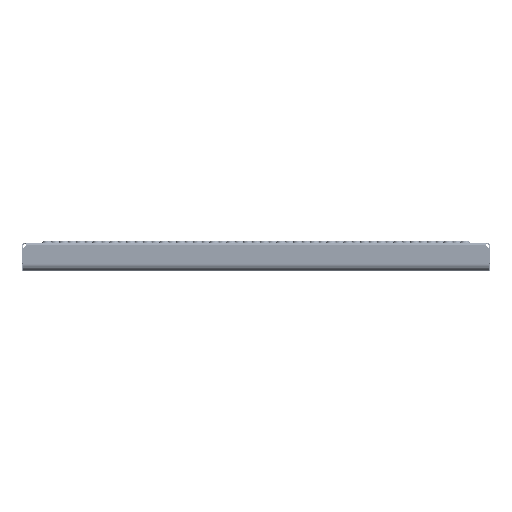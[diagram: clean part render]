
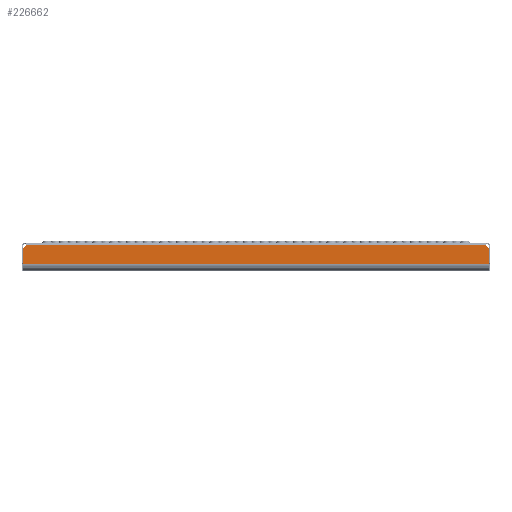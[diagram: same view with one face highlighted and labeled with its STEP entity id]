
A CAD part, top view. The second image highlights one B-rep face of the part: STEP entity #226662.
In plain terms, the highlighted planar face has unit normal (0, 0, 1).
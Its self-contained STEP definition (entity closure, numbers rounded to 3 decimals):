
#12588 = DIRECTION ( 'NONE',  ( 0., -1., 0. ) ) ;
#14128 = FACE_OUTER_BOUND ( 'NONE', #246063, .T. ) ;
#17501 = CARTESIAN_POINT ( 'NONE',  ( -349., -4., 150. ) ) ;
#19341 = DIRECTION ( 'NONE',  ( 1., 0., 0. ) ) ;
#22584 = VERTEX_POINT ( 'NONE', #26244 ) ;
#26244 = CARTESIAN_POINT ( 'NONE',  ( 347.99, -31.998, 150. ) ) ;
#27029 = VECTOR ( 'NONE', #19341, 1000. ) ;
#28906 = CIRCLE ( 'NONE', #253427, 5. ) ;
#31273 = VERTEX_POINT ( 'NONE', #160345 ) ;
#34702 = AXIS2_PLACEMENT_3D ( 'NONE', #245841, #217418, #114627 ) ;
#42456 = AXIS2_PLACEMENT_3D ( 'NONE', #135863, #196621, #137771 ) ;
#56095 = CARTESIAN_POINT ( 'NONE',  ( 347.99, -7.185, 150. ) ) ;
#65887 = CARTESIAN_POINT ( 'NONE',  ( -347.99, -31.998, 150. ) ) ;
#69924 = EDGE_CURVE ( 'NONE', #171690, #137616, #353623, .T. ) ;
#72629 = LINE ( 'NONE', #17501, #27029 ) ;
#72826 = LINE ( 'NONE', #304435, #137742 ) ;
#88571 = EDGE_CURVE ( 'NONE', #31273, #310444, #72629, .T. ) ;
#88721 = ORIENTED_EDGE ( 'NONE', *, *, #94200, .T. ) ;
#94200 = EDGE_CURVE ( 'NONE', #31273, #171690, #321399, .T. ) ;
#96220 = CARTESIAN_POINT ( 'NONE',  ( 349., -2.288, 150. ) ) ;
#105761 = VECTOR ( 'NONE', #121997, 1000. ) ;
#114627 = DIRECTION ( 'NONE',  ( 0., -1., 0. ) ) ;
#117644 = ORIENTED_EDGE ( 'NONE', *, *, #69924, .T. ) ;
#121997 = DIRECTION ( 'NONE',  ( 0., -1., 0. ) ) ;
#130038 = PLANE ( 'NONE',  #34702 ) ;
#135863 = CARTESIAN_POINT ( 'NONE',  ( -349., -2.288, 150. ) ) ;
#137616 = VERTEX_POINT ( 'NONE', #65887 ) ;
#137742 = VECTOR ( 'NONE', #247530, 1000. ) ;
#137771 = DIRECTION ( 'NONE',  ( 0., -1., 0. ) ) ;
#160345 = CARTESIAN_POINT ( 'NONE',  ( -344.302, -4., 150. ) ) ;
#171690 = VERTEX_POINT ( 'NONE', #249915 ) ;
#181935 = DIRECTION ( 'NONE',  ( 0., 1., 0. ) ) ;
#196621 = DIRECTION ( 'NONE',  ( 0., 0., -1. ) ) ;
#199512 = ORIENTED_EDGE ( 'NONE', *, *, #219019, .T. ) ;
#217418 = DIRECTION ( 'NONE',  ( 0., 0., 1. ) ) ;
#218397 = EDGE_CURVE ( 'NONE', #137616, #22584, #72826, .T. ) ;
#219019 = EDGE_CURVE ( 'NONE', #348285, #310444, #28906, .T. ) ;
#226662 = ADVANCED_FACE ( 'NONE', ( #14128 ), #130038, .T. ) ;
#240482 = ORIENTED_EDGE ( 'NONE', *, *, #363533, .T. ) ;
#240750 = LINE ( 'NONE', #356576, #350836 ) ;
#242169 = ORIENTED_EDGE ( 'NONE', *, *, #218397, .T. ) ;
#245841 = CARTESIAN_POINT ( 'NONE',  ( -349., 295.712, 150. ) ) ;
#246063 = EDGE_LOOP ( 'NONE', ( #242169, #240482, #199512, #295190, #88721, #117644 ) ) ;
#247530 = DIRECTION ( 'NONE',  ( 1., 0., 0. ) ) ;
#249915 = CARTESIAN_POINT ( 'NONE',  ( -347.99, -7.185, 150. ) ) ;
#253427 = AXIS2_PLACEMENT_3D ( 'NONE', #96220, #304944, #12588 ) ;
#266330 = CARTESIAN_POINT ( 'NONE',  ( -347.99, -7.185, 150. ) ) ;
#295190 = ORIENTED_EDGE ( 'NONE', *, *, #88571, .F. ) ;
#304435 = CARTESIAN_POINT ( 'NONE',  ( -347.99, -31.998, 150. ) ) ;
#304944 = DIRECTION ( 'NONE',  ( 0., 0., -1. ) ) ;
#310444 = VERTEX_POINT ( 'NONE', #339833 ) ;
#321399 = CIRCLE ( 'NONE', #42456, 5. ) ;
#339833 = CARTESIAN_POINT ( 'NONE',  ( 344.302, -4., 150. ) ) ;
#348285 = VERTEX_POINT ( 'NONE', #56095 ) ;
#350836 = VECTOR ( 'NONE', #181935, 1000. ) ;
#353623 = LINE ( 'NONE', #266330, #105761 ) ;
#356576 = CARTESIAN_POINT ( 'NONE',  ( 347.99, -7.185, 150. ) ) ;
#363533 = EDGE_CURVE ( 'NONE', #22584, #348285, #240750, .T. ) ;
